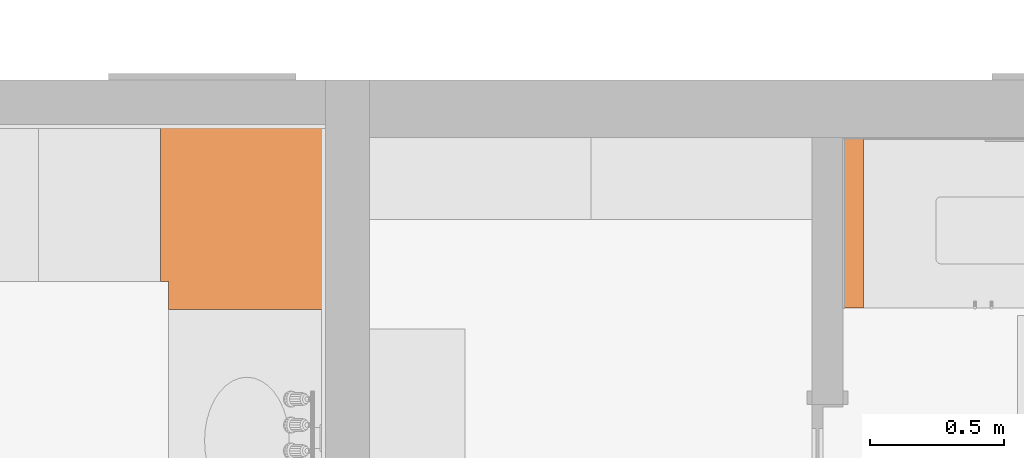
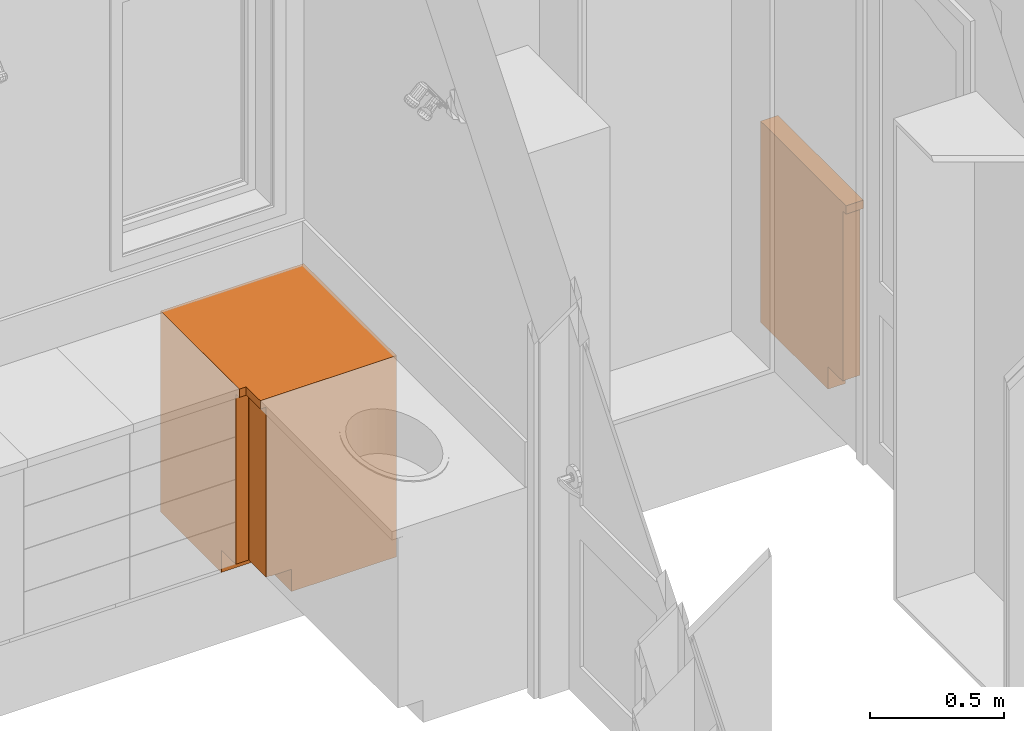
# One storey, part 71 of 77: 2 proxies.
"""IFC2X3 building model written with IfcOpenShell, lengths in inches."""

from ifc_helpers import new_model, entity, si_unit, converted_unit, derived_unit, money_unit, direction, frame, origin_with_axes, place, context, subcontext, project, spatial, faceted_brep, type_object, element, save


model = new_model("IFC2X3")

# Units and contexts
model_context = context("Model", 3, precision=0.000393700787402, world=origin_with_axes(), true_north=direction((0.0, 1.0)))
body_context = subcontext(model_context, "Body", "Model", "MODEL_VIEW")
ifc_project = project(units=[converted_unit("LENGTHUNIT", "INCH", entity("IfcPositiveLengthMeasure", 0.0254), si_unit("LENGTHUNIT", "METRE"), dimensions=[1, 0, 0, 0, 0, 0, 0]), converted_unit("AREAUNIT", "SQUARE_FOOT", entity("IfcPositiveLengthMeasure", 0.09290304), si_unit("AREAUNIT", "SQUARE_METRE"), dimensions=[2, 0, 0, 0, 0, 0, 0]), si_unit("PLANEANGLEUNIT", "RADIAN"), si_unit("SOLIDANGLEUNIT", "STERADIAN"), money_unit("USD"), converted_unit("TIMEUNIT", "Year", entity("IfcTimeMeasure", 31556926.0), si_unit("TIMEUNIT", "SECOND"), dimensions=[0, 0, 1, 0, 0, 0, 0]), si_unit("MASSUNIT", "GRAM", prefix="KILO"), si_unit("THERMODYNAMICTEMPERATUREUNIT", "DEGREE_CELSIUS"), si_unit("LUMINOUSINTENSITYUNIT", "LUMEN"), si_unit("ENERGYUNIT", "JOULE", prefix="MEGA"), derived_unit("THERMALCONDUCTANCEUNIT", [(si_unit("POWERUNIT", "WATT"), 1), (si_unit("LENGTHUNIT", "METRE"), -1), (si_unit("THERMODYNAMICTEMPERATUREUNIT", "KELVIN"), -1)]), derived_unit("SPECIFICHEATCAPACITYUNIT", [(si_unit("ENERGYUNIT", "JOULE"), 1), (si_unit("MASSUNIT", "GRAM", prefix="KILO"), -1), (si_unit("THERMODYNAMICTEMPERATUREUNIT", "KELVIN"), -1)]), derived_unit("MASSDENSITYUNIT", [(si_unit("MASSUNIT", "GRAM", prefix="KILO"), 1), (si_unit("VOLUMEUNIT", "CUBIC_METRE"), -1)])], contexts=[model_context])

# Site, building, storey
site_placement = place(None, origin_with_axes())
site = spatial("IfcSite", under=ifc_project, at=site_placement, Name="Site", CompositionType="ELEMENT")
building_placement = place(site_placement, origin_with_axes())
building = spatial("IfcBuilding", under=site, at=building_placement, Name="Building", CompositionType="ELEMENT")
storey_placement = place(building_placement, frame((0.0, 0.0, 127.952755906), z_axis=(0.0, 0.0, 1.0), x_axis=(1.0, 0.0, 0.0)))
storey = spatial("IfcBuildingStorey", under=building, at=storey_placement, Name="Second Floor", CompositionType="ELEMENT", Elevation=127.953)

# Proxies
building_element_proxy_type_1 = type_object("IfcBuildingElementProxyType", Name="Base Cabinet Block 25", PredefinedType="NOTDEFINED")
proxy_1_placement = place(storey_placement, frame((647.536901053, 581.014426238, 0.0), z_axis=(0.0, 0.0, 1.0), x_axis=(1.0, 0.0, 0.0)))
element("IfcBuildingElementProxy", 1, at=proxy_1_placement, inside=storey, type_object=building_element_proxy_type_1, Name="FU - 007", context=body_context, shape_type="Brep", body=[
    faceted_brep([(0.0, -25.0, 34.4488188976), (2.95275590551, -25.0, 34.4488188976), (2.95275590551, -25.0, 35.9488188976), (0.0, -25.0, 35.9488188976), (0.0, 0.0, 34.4488188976), (2.95275590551, 0.0, 34.4488188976), (2.95275590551, 0.0, 35.9488188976), (0.0, 0.0, 35.9488188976)], [[[0, 1, 2, 3]], [[0, 4, 5, 1]], [[1, 5, 6, 2]], [[3, 2, 6, 7]], [[4, 0, 3, 7]], [[5, 4, 7, 6]]]),
    faceted_brep([(0.0393700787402, -23.25, 4.03937007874), (2.91338582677, -23.25, 4.03937007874), (2.91338582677, -24.0, 4.03937007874), (0.0393700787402, -24.0, 4.03937007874), (0.0393700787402, -23.25, 34.4094488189), (2.91338582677, -23.25, 34.4094488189), (2.91338582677, -24.0, 34.4094488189), (0.0393700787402, -24.0, 34.4094488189)], [[[0, 1, 2, 3]], [[0, 4, 5, 1]], [[1, 5, 6, 2]], [[3, 2, 6, 7]], [[4, 0, 3, 7]], [[5, 4, 7, 6]]]),
    faceted_brep([(0.75, -23.25, 4.0), (2.20275590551, -23.25, 4.0), (2.20275590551, -23.25, 4.75), (0.75, -23.25, 4.75), (0.75, 0.0, 4.0), (2.20275590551, 0.0, 4.0), (2.20275590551, 0.0, 4.75), (0.75, 0.0, 4.75)], [[[0, 1, 2, 3]], [[0, 4, 5, 1]], [[1, 5, 6, 2]], [[3, 2, 6, 7]], [[4, 0, 3, 7]], [[5, 4, 7, 6]]]),
    faceted_brep([(0.75, -23.25, 33.6988188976), (0.75, -20.8877952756, 33.6988188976), (2.20275590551, -20.8877952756, 33.6988188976), (2.20275590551, -23.25, 33.6988188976), (0.75, -23.25, 34.4488188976), (0.75, -20.8877952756, 34.4488188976), (2.20275590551, -20.8877952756, 34.4488188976), (2.20275590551, -23.25, 34.4488188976)], [[[0, 1, 2, 3]], [[0, 4, 5, 1]], [[1, 5, 6, 2]], [[3, 2, 6, 7]], [[4, 0, 3, 7]], [[5, 4, 7, 6]]]),
    faceted_brep([(2.20275590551, 0.0, 33.6988188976), (2.20275590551, -2.36220472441, 33.6988188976), (0.75, -2.36220472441, 33.6988188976), (0.75, 0.0, 33.6988188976), (2.20275590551, 0.0, 34.4488188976), (2.20275590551, -2.36220472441, 34.4488188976), (0.75, -2.36220472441, 34.4488188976), (0.75, 0.0, 34.4488188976)], [[[0, 1, 2, 3]], [[0, 4, 5, 1]], [[1, 5, 6, 2]], [[3, 2, 6, 7]], [[4, 0, 3, 7]], [[5, 4, 7, 6]]]),
    faceted_brep([(0.0, 0.0, 4.0), (0.0, -23.25, 4.0), (0.0, -23.25, 34.4488188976), (0.0, 0.0, 34.4488188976), (0.75, 0.0, 4.0), (0.75, -23.25, 4.0), (0.75, -23.25, 34.4488188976), (0.75, 0.0, 34.4488188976)], [[[0, 1, 2, 3]], [[0, 4, 5, 1]], [[1, 5, 6, 2]], [[3, 2, 6, 7]], [[4, 0, 3, 7]], [[5, 4, 7, 6]]]),
    faceted_brep([(2.95275590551, -23.25, 4.0), (2.95275590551, 0.0, 4.0), (2.95275590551, 0.0, 34.4488188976), (2.95275590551, -23.25, 34.4488188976), (2.20275590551, -23.25, 4.0), (2.20275590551, 0.0, 4.0), (2.20275590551, 0.0, 34.4488188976), (2.20275590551, -23.25, 34.4488188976)], [[[0, 1, 2, 3]], [[0, 4, 5, 1]], [[1, 5, 6, 2]], [[3, 2, 6, 7]], [[4, 0, 3, 7]], [[5, 4, 7, 6]]]),
    faceted_brep([(2.20275590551, -0.375, 4.75), (0.75, -0.375, 4.75), (0.75, -0.375, 33.6988188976), (2.20275590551, -0.375, 33.6988188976), (2.20275590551, -0.75, 4.75), (0.75, -0.75, 4.75), (0.75, -0.75, 33.6988188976), (2.20275590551, -0.75, 33.6988188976)], [[[0, 1, 2, 3]], [[0, 4, 5, 1]], [[1, 5, 6, 2]], [[3, 2, 6, 7]], [[4, 0, 3, 7]], [[5, 4, 7, 6]]]),
    faceted_brep([(0.0, -19.75, 0.0), (2.95275590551, -19.75, 0.0), (2.95275590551, -19.75, 4.0), (0.0, -19.75, 4.0), (0.0, 0.0, 0.0), (2.95275590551, 0.0, 0.0), (2.95275590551, 0.0, 4.0), (0.0, 0.0, 4.0)], [[[0, 1, 2, 3]], [[0, 4, 5, 1]], [[1, 5, 6, 2]], [[3, 2, 6, 7]], [[4, 0, 3, 7]], [[5, 4, 7, 6]]]),
])
building_element_proxy_type_2 = type_object("IfcBuildingElementProxyType", Name="Base Cabinet Corner L 25", PredefinedType="NOTDEFINED")
proxy_2_placement = place(storey_placement, frame((571.489644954, 582.981928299, 0.0), z_axis=(0.0, 0.0, 1.0), x_axis=(0.0, -1.0, 0.0)))
element("IfcBuildingElementProxy", 2, at=proxy_2_placement, inside=storey, type_object=building_element_proxy_type_2, Name="FU - 025", context=body_context, shape_type="Brep", body=[
    faceted_brep([(0.0, -24.2125984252, 34.4488188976), (23.047244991, -24.2125984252, 34.4488188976), (23.047244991, -24.2125984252, 35.9488188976), (0.0, -24.2125984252, 35.9488188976), (0.0, -23.0472440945, 34.4488188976), (23.047244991, -23.0472440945, 34.4488188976), (23.047244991, -23.0472440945, 35.9488188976), (0.0, -23.0472440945, 35.9488188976)], [[[0, 1, 2, 3]], [[0, 4, 5, 1]], [[1, 5, 6, 2]], [[3, 2, 6, 7]], [[4, 0, 3, 7]], [[5, 4, 7, 6]]]),
    faceted_brep([(23.047244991, -23.0472440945, 34.4488188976), (27.1653543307, -23.0472440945, 34.4488188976), (27.1653543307, -23.0472440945, 35.9488188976), (23.047244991, -23.0472440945, 35.9488188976), (0.0, -23.0472440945, 34.4488188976), (0.0, 0.0, 34.4488188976), (27.1653543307, 0.0, 34.4488188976), (27.1653543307, 0.0, 35.9488188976), (0.0, 0.0, 35.9488188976), (0.0, -23.0472440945, 35.9488188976)], [[[0, 1, 2, 3]], [[0, 4, 5, 6, 1]], [[1, 6, 7, 2]], [[3, 2, 7, 8, 9]], [[4, 0, 3, 9]], [[5, 4, 9, 8]], [[6, 5, 8, 7]]]),
    faceted_brep([(27.125984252, -21.2972440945, 4.03937007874), (27.125984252, -22.0472440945, 4.03937007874), (22.0866150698, -22.0472440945, 4.03937007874), (22.0866150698, -21.2972440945, 4.03937007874), (27.125984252, -21.2972440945, 34.4094488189), (27.125984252, -22.0472440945, 34.4094488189), (22.0866150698, -22.0472440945, 34.4094488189), (22.0866150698, -21.2972440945, 34.4094488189)], [[[0, 1, 2, 3]], [[4, 5, 1, 0]], [[1, 5, 6, 2]], [[3, 2, 6, 7]], [[0, 3, 7, 4]], [[7, 6, 5, 4]]]),
    faceted_brep([(21.297244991, -22.0866141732, 4.03937007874), (22.047244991, -22.0866141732, 4.03937007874), (22.047244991, -24.1732283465, 4.03937007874), (21.297244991, -24.1732283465, 4.03937007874), (21.297244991, -22.0866141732, 34.4094488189), (22.047244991, -22.0866141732, 34.4094488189), (22.047244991, -24.1732283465, 34.4094488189), (21.297244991, -24.1732283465, 34.4094488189)], [[[0, 1, 2, 3]], [[4, 5, 1, 0]], [[1, 5, 6, 2]], [[3, 2, 6, 7]], [[0, 3, 7, 4]], [[7, 6, 5, 4]]]),
    faceted_brep([(0.0, -23.4625984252, 4.0), (21.297244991, -23.4625984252, 4.0), (21.297244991, -23.4625984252, 4.75), (0.0, -23.4625984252, 4.75), (0.0, 0.0, 4.0), (26.4153543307, 0.0, 4.0), (26.4153543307, -21.2972440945, 4.0), (21.297244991, -21.2972440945, 4.0), (21.297244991, -21.2972440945, 4.75), (26.4153543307, -21.2972440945, 4.75), (26.4153543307, 0.0, 4.75), (0.0, 0.0, 4.75)], [[[0, 1, 2, 3]], [[0, 4, 5, 6, 7, 1]], [[1, 7, 8, 2]], [[3, 2, 8, 9, 10, 11]], [[4, 0, 3, 11]], [[5, 4, 11, 10]], [[6, 5, 10, 9]], [[7, 6, 9, 8]]]),
    faceted_brep([(21.297244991, -23.4625984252, 33.6988188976), (18.9350402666, -23.4625984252, 33.6988188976), (18.9350402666, -18.9350393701, 33.6988188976), (21.297244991, -21.2972440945, 33.6988188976), (21.297244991, -23.4625984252, 34.4488188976), (18.9350402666, -23.4625984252, 34.4488188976), (18.9350402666, -18.9350393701, 34.4488188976), (21.297244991, -21.2972440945, 34.4488188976)], [[[0, 1, 2, 3]], [[0, 4, 5, 1]], [[1, 5, 6, 2]], [[3, 2, 6, 7]], [[4, 0, 3, 7]], [[5, 4, 7, 6]]]),
    faceted_brep([(21.297244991, -21.2972440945, 33.6988188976), (18.9350402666, -18.9350393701, 33.6988188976), (26.4153543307, -18.9350393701, 33.6988188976), (26.4153543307, -21.2972440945, 33.6988188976), (21.297244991, -21.2972440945, 34.4488188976), (18.9350402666, -18.9350393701, 34.4488188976), (26.4153543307, -18.9350393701, 34.4488188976), (26.4153543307, -21.2972440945, 34.4488188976)], [[[0, 1, 2, 3]], [[0, 4, 5, 1]], [[1, 5, 6, 2]], [[3, 2, 6, 7]], [[4, 0, 3, 7]], [[5, 4, 7, 6]]]),
    faceted_brep([(26.4153543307, 0.0, 33.6988188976), (26.4153543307, -2.36220472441, 33.6988188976), (2.36220472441, -2.36220472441, 33.6988188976), (0.0, 0.0, 33.6988188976), (26.4153543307, 0.0, 34.4488188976), (26.4153543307, -2.36220472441, 34.4488188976), (2.36220472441, -2.36220472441, 34.4488188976), (0.0, 0.0, 34.4488188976)], [[[0, 1, 2, 3]], [[0, 4, 5, 1]], [[1, 5, 6, 2]], [[3, 2, 6, 7]], [[4, 0, 3, 7]], [[5, 4, 7, 6]]]),
    faceted_brep([(0.0, 0.0, 33.6988188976), (2.36220472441, -2.36220472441, 33.6988188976), (2.36220472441, -23.4625984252, 33.6988188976), (0.0, -23.4625984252, 33.6988188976), (0.0, 0.0, 34.4488188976), (2.36220472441, -2.36220472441, 34.4488188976), (2.36220472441, -23.4625984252, 34.4488188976), (0.0, -23.4625984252, 34.4488188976)], [[[0, 1, 2, 3]], [[0, 4, 5, 1]], [[1, 5, 6, 2]], [[3, 2, 6, 7]], [[4, 0, 3, 7]], [[5, 4, 7, 6]]]),
    faceted_brep([(0.0, -24.2125984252, 4.0), (21.297244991, -24.2125984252, 4.0), (21.297244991, -24.2125984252, 34.4488188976), (0.0, -24.2125984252, 34.4488188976), (0.0, -23.4625984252, 4.0), (21.297244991, -23.4625984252, 4.0), (21.297244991, -23.4625984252, 34.4488188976), (0.0, -23.4625984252, 34.4488188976)], [[[0, 1, 2, 3]], [[0, 4, 5, 1]], [[1, 5, 6, 2]], [[3, 2, 6, 7]], [[4, 0, 3, 7]], [[5, 4, 7, 6]]]),
    faceted_brep([(0.0, 0.0, 4.75), (0.0, -23.4625984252, 4.75), (0.0, -23.4625984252, 33.6988188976), (0.0, 0.0, 33.6988188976), (0.75, -0.75, 4.75), (0.75, -23.4625984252, 4.75), (0.75, -23.4625984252, 33.6988188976), (0.75, -0.75, 33.6988188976)], [[[0, 1, 2, 3]], [[0, 4, 5, 1]], [[1, 5, 6, 2]], [[3, 2, 6, 7]], [[4, 0, 3, 7]], [[5, 4, 7, 6]]]),
    faceted_brep([(27.1653543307, -21.2972440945, 4.0), (27.1653543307, 0.0, 4.0), (27.1653543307, 0.0, 34.4488188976), (27.1653543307, -21.2972440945, 34.4488188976), (26.4153543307, -21.2972440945, 4.0), (26.4153543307, 0.0, 4.0), (26.4153543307, 0.0, 34.4488188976), (26.4153543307, -21.2972440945, 34.4488188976)], [[[0, 1, 2, 3]], [[0, 4, 5, 1]], [[1, 5, 6, 2]], [[3, 2, 6, 7]], [[4, 0, 3, 7]], [[5, 4, 7, 6]]]),
    faceted_brep([(26.4153543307, 0.0, 4.75), (0.0, 0.0, 4.75), (0.0, 0.0, 33.6988188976), (26.4153543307, 0.0, 33.6988188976), (26.4153543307, -0.75, 4.75), (0.75, -0.75, 4.75), (0.75, -0.75, 33.6988188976), (26.4153543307, -0.75, 33.6988188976)], [[[0, 1, 2, 3]], [[0, 4, 5, 1]], [[1, 5, 6, 2]], [[3, 2, 6, 7]], [[4, 0, 3, 7]], [[5, 4, 7, 6]]]),
    faceted_brep([(0.0, -24.2125984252, 0.0), (17.797244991, -24.2125984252, 0.0), (17.797244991, -24.2125984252, 4.0), (0.0, -24.2125984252, 4.0), (0.0, 0.0, 0.0), (27.1653543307, 0.0, 0.0), (27.1653543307, -17.7972440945, 0.0), (17.797244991, -17.7972440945, 0.0), (17.797244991, -17.7972440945, 4.0), (27.1653543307, -17.7972440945, 4.0), (27.1653543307, 0.0, 4.0), (0.0, 0.0, 4.0)], [[[0, 1, 2, 3]], [[0, 4, 5, 6, 7, 1]], [[1, 7, 8, 2]], [[3, 2, 8, 9, 10, 11]], [[4, 0, 3, 11]], [[5, 4, 11, 10]], [[6, 5, 10, 9]], [[7, 6, 9, 8]]]),
])

save(model, "model.ifc")
